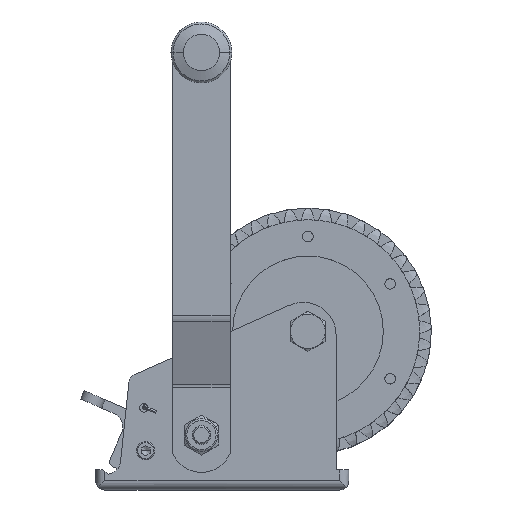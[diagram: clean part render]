
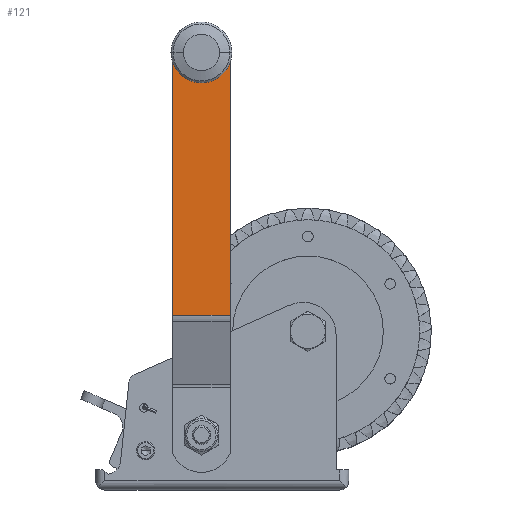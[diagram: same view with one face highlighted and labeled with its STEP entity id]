
A CAD part, top view. The second image highlights one B-rep face of the part: STEP entity #121.
In plain terms, the highlighted planar face has unit normal (0, 0, 1).
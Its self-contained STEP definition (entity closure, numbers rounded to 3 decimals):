
#121=ADVANCED_FACE('',(#1232,#1233),#1231,.F.);
#1231=PLANE('',#11534);
#1232=FACE_OUTER_BOUND('',#11535,.T.);
#1233=FACE_BOUND('',#11536,.T.);
#11531=CARTESIAN_POINT('',(1507.003,10.489,167.25));
#11532=DIRECTION('',(0.,0.,-1.));
#11533=DIRECTION('',(0.,1.,0.));
#11534=AXIS2_PLACEMENT_3D('',#11531,#11532,#11533);
#11535=EDGE_LOOP('',(#18402,#18403,#18404,#18405));
#11536=EDGE_LOOP('',(#18406,#18407));
#18402=ORIENTED_EDGE('',*,*,#23911,.T.);
#18403=ORIENTED_EDGE('',*,*,#23912,.T.);
#18404=ORIENTED_EDGE('',*,*,#23909,.F.);
#18405=ORIENTED_EDGE('',*,*,#23913,.F.);
#18406=ORIENTED_EDGE('',*,*,#23914,.T.);
#18407=ORIENTED_EDGE('',*,*,#23915,.T.);
#23909=EDGE_CURVE('',#26896,#26903,#26904,.T.);
#23911=EDGE_CURVE('',#26916,#26917,#26918,.T.);
#23912=EDGE_CURVE('',#26917,#26903,#26924,.T.);
#23913=EDGE_CURVE('',#26916,#26896,#26930,.T.);
#23914=EDGE_CURVE('',#26936,#26937,#26938,.T.);
#23915=EDGE_CURVE('',#26937,#26936,#26944,.T.);
#26896=VERTEX_POINT('',#45149);
#26903=VERTEX_POINT('',#45154);
#26904=LINE('',#45155,#45156);
#26916=VERTEX_POINT('',#45162);
#26917=VERTEX_POINT('',#45163);
#26918=CIRCLE('',#45167,17.063);
#26924=LINE('',#45168,#45169);
#26930=LINE('',#45171,#45172);
#26936=VERTEX_POINT('',#45174);
#26937=VERTEX_POINT('',#45175);
#26938=CIRCLE('',#45179,7.);
#26944=CIRCLE('',#45183,7.);
#45149=CARTESIAN_POINT('',(1541.653,20.489,167.25));
#45154=CARTESIAN_POINT('',(1510.153,20.489,167.25));
#45155=CARTESIAN_POINT('',(1541.653,20.489,167.25));
#45156=VECTOR('',#45157,31.5);
#45157=DIRECTION('',(-1.,0.,0.));
#45162=CARTESIAN_POINT('',(1541.653,170.299,167.25));
#45163=CARTESIAN_POINT('',(1510.153,170.299,167.25));
#45164=CARTESIAN_POINT('',(1525.903,163.736,167.25));
#45165=DIRECTION('',(0.,0.,1.));
#45166=DIRECTION('',(0.,-1.,0.));
#45167=AXIS2_PLACEMENT_3D('',#45164,#45165,#45166);
#45168=CARTESIAN_POINT('',(1510.153,170.299,167.25));
#45169=VECTOR('',#45170,149.81);
#45170=DIRECTION('',(0.,-1.,0.));
#45171=CARTESIAN_POINT('',(1541.653,170.299,167.25));
#45172=VECTOR('',#45173,149.81);
#45173=DIRECTION('',(0.,-1.,0.));
#45174=CARTESIAN_POINT('',(1518.903,164.799,167.25));
#45175=CARTESIAN_POINT('',(1532.903,164.799,167.25));
#45176=CARTESIAN_POINT('',(1525.903,164.799,167.25));
#45177=DIRECTION('',(0.,0.,-1.));
#45178=DIRECTION('',(-1.,0.,0.));
#45179=AXIS2_PLACEMENT_3D('',#45176,#45177,#45178);
#45180=CARTESIAN_POINT('',(1525.903,164.799,167.25));
#45181=DIRECTION('',(0.,0.,-1.));
#45182=DIRECTION('',(-1.,0.,0.));
#45183=AXIS2_PLACEMENT_3D('',#45180,#45181,#45182);
